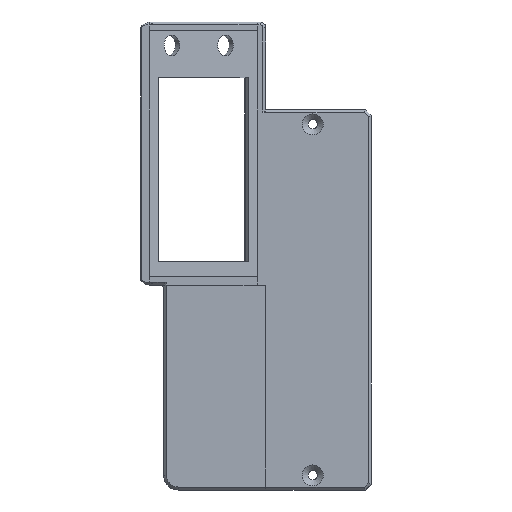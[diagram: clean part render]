
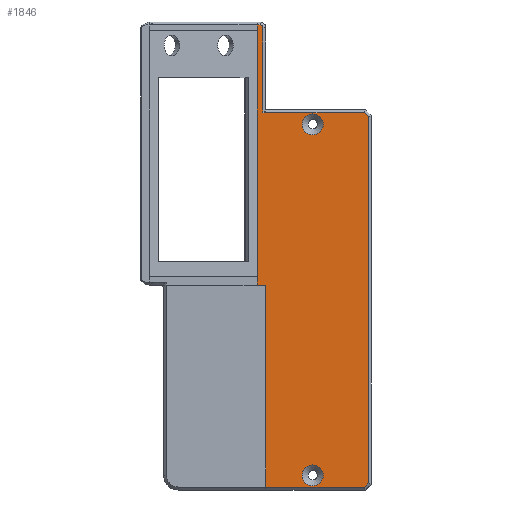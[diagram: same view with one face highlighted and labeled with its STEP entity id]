
A CAD part, left-side view. The second image highlights one B-rep face of the part: STEP entity #1846.
In plain terms, the highlighted planar face has unit normal (-1, 0, 0).
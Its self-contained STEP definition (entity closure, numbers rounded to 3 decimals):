
#987 = VERTEX_POINT('',#988);
#988 = CARTESIAN_POINT('',(0.,39.,70.));
#1020 = VERTEX_POINT('',#1021);
#1021 = CARTESIAN_POINT('',(0.,39.,73.));
#1027 = EDGE_CURVE('',#987,#1020,#1028,.T.);
#1028 = LINE('',#1029,#1030);
#1029 = CARTESIAN_POINT('',(0.,39.,0.));
#1030 = VECTOR('',#1031,1.);
#1031 = DIRECTION('',(0.,0.,1.));
#1416 = EDGE_CURVE('',#1417,#1419,#1421,.T.);
#1417 = VERTEX_POINT('',#1418);
#1418 = CARTESIAN_POINT('',(0.,39.,157.));
#1419 = VERTEX_POINT('',#1420);
#1420 = CARTESIAN_POINT('',(0.,39.,159.));
#1421 = LINE('',#1422,#1423);
#1422 = CARTESIAN_POINT('',(0.,39.,0.));
#1423 = VECTOR('',#1424,1.);
#1424 = DIRECTION('',(0.,0.,1.));
#1770 = EDGE_CURVE('',#1771,#1773,#1775,.T.);
#1771 = VERTEX_POINT('',#1772);
#1772 = CARTESIAN_POINT('',(0.,36.,1.));
#1773 = VERTEX_POINT('',#1774);
#1774 = CARTESIAN_POINT('',(0.,36.,70.));
#1775 = LINE('',#1776,#1777);
#1776 = CARTESIAN_POINT('',(0.,36.,0.));
#1777 = VECTOR('',#1778,1.);
#1778 = DIRECTION('',(0.,0.,1.));
#1804 = EDGE_CURVE('',#987,#1773,#1805,.T.);
#1805 = LINE('',#1806,#1807);
#1806 = CARTESIAN_POINT('',(0.,80.,70.));
#1807 = VECTOR('',#1808,1.);
#1808 = DIRECTION('',(0.,-1.,0.));
#1846 = ADVANCED_FACE('',(#1847,#1858,#1949),#1960,.T.);
#1847 = FACE_BOUND('',#1848,.T.);
#1848 = EDGE_LOOP('',(#1849));
#1849 = ORIENTED_EDGE('',*,*,#1850,.F.);
#1850 = EDGE_CURVE('',#1851,#1851,#1853,.T.);
#1851 = VERTEX_POINT('',#1852);
#1852 = CARTESIAN_POINT('',(0.,16.4,5.));
#1853 = CIRCLE('',#1854,3.6);
#1854 = AXIS2_PLACEMENT_3D('',#1855,#1856,#1857);
#1855 = CARTESIAN_POINT('',(0.,20.,5.));
#1856 = DIRECTION('',(-1.,0.,0.));
#1857 = DIRECTION('',(0.,-1.,0.));
#1858 = FACE_BOUND('',#1859,.T.);
#1859 = EDGE_LOOP('',(#1860,#1861,#1869,#1877,#1885,#1893,#1901,#1909,
    #1917,#1925,#1934,#1940,#1941,#1947,#1948));
#1860 = ORIENTED_EDGE('',*,*,#1770,.F.);
#1861 = ORIENTED_EDGE('',*,*,#1862,.F.);
#1862 = EDGE_CURVE('',#1863,#1771,#1865,.T.);
#1863 = VERTEX_POINT('',#1864);
#1864 = CARTESIAN_POINT('',(0.,2.414,1.));
#1865 = LINE('',#1866,#1867);
#1866 = CARTESIAN_POINT('',(0.,2.,1.));
#1867 = VECTOR('',#1868,1.);
#1868 = DIRECTION('',(0.,1.,0.));
#1869 = ORIENTED_EDGE('',*,*,#1870,.T.);
#1870 = EDGE_CURVE('',#1863,#1871,#1873,.T.);
#1871 = VERTEX_POINT('',#1872);
#1872 = CARTESIAN_POINT('',(0.,1.,2.414));
#1873 = LINE('',#1874,#1875);
#1874 = CARTESIAN_POINT('',(0.,2.707,
    0.707));
#1875 = VECTOR('',#1876,1.);
#1876 = DIRECTION('',(0.,-0.707,0.707));
#1877 = ORIENTED_EDGE('',*,*,#1878,.T.);
#1878 = EDGE_CURVE('',#1871,#1879,#1881,.T.);
#1879 = VERTEX_POINT('',#1880);
#1880 = CARTESIAN_POINT('',(0.,1.,127.586));
#1881 = LINE('',#1882,#1883);
#1882 = CARTESIAN_POINT('',(0.,1.,2.));
#1883 = VECTOR('',#1884,1.);
#1884 = DIRECTION('',(0.,0.,1.));
#1885 = ORIENTED_EDGE('',*,*,#1886,.F.);
#1886 = EDGE_CURVE('',#1887,#1879,#1889,.T.);
#1887 = VERTEX_POINT('',#1888);
#1888 = CARTESIAN_POINT('',(0.,2.414,129.));
#1889 = LINE('',#1890,#1891);
#1890 = CARTESIAN_POINT('',(0.,2.707,
    129.293));
#1891 = VECTOR('',#1892,1.);
#1892 = DIRECTION('',(-0.,-0.707,-0.707));
#1893 = ORIENTED_EDGE('',*,*,#1894,.T.);
#1894 = EDGE_CURVE('',#1887,#1895,#1897,.T.);
#1895 = VERTEX_POINT('',#1896);
#1896 = CARTESIAN_POINT('',(0.,36.,129.));
#1897 = LINE('',#1898,#1899);
#1898 = CARTESIAN_POINT('',(0.,2.,129.));
#1899 = VECTOR('',#1900,1.);
#1900 = DIRECTION('',(0.,1.,0.));
#1901 = ORIENTED_EDGE('',*,*,#1902,.T.);
#1902 = EDGE_CURVE('',#1895,#1903,#1905,.T.);
#1903 = VERTEX_POINT('',#1904);
#1904 = CARTESIAN_POINT('',(0.,37.,129.));
#1905 = LINE('',#1906,#1907);
#1906 = CARTESIAN_POINT('',(0.,36.,129.));
#1907 = VECTOR('',#1908,1.);
#1908 = DIRECTION('',(0.,1.,0.));
#1909 = ORIENTED_EDGE('',*,*,#1910,.F.);
#1910 = EDGE_CURVE('',#1911,#1903,#1913,.T.);
#1911 = VERTEX_POINT('',#1912);
#1912 = CARTESIAN_POINT('',(0.,37.,130.));
#1913 = LINE('',#1914,#1915);
#1914 = CARTESIAN_POINT('',(0.,37.,79.));
#1915 = VECTOR('',#1916,1.);
#1916 = DIRECTION('',(-0.,-0.,-1.));
#1917 = ORIENTED_EDGE('',*,*,#1918,.F.);
#1918 = EDGE_CURVE('',#1919,#1911,#1921,.T.);
#1919 = VERTEX_POINT('',#1920);
#1920 = CARTESIAN_POINT('',(0.,37.,158.));
#1921 = LINE('',#1922,#1923);
#1922 = CARTESIAN_POINT('',(0.,37.,158.));
#1923 = VECTOR('',#1924,1.);
#1924 = DIRECTION('',(-0.,-0.,-1.));
#1925 = ORIENTED_EDGE('',*,*,#1926,.F.);
#1926 = EDGE_CURVE('',#1927,#1919,#1929,.T.);
#1927 = VERTEX_POINT('',#1928);
#1928 = CARTESIAN_POINT('',(0.,38.,159.));
#1929 = CIRCLE('',#1930,1.);
#1930 = AXIS2_PLACEMENT_3D('',#1931,#1932,#1933);
#1931 = CARTESIAN_POINT('',(0.,38.,158.));
#1932 = DIRECTION('',(1.,0.,-0.));
#1933 = DIRECTION('',(0.,0.,1.));
#1934 = ORIENTED_EDGE('',*,*,#1935,.F.);
#1935 = EDGE_CURVE('',#1419,#1927,#1936,.T.);
#1936 = LINE('',#1937,#1938);
#1937 = CARTESIAN_POINT('',(0.,39.,159.));
#1938 = VECTOR('',#1939,1.);
#1939 = DIRECTION('',(-0.,-1.,-0.));
#1940 = ORIENTED_EDGE('',*,*,#1416,.F.);
#1941 = ORIENTED_EDGE('',*,*,#1942,.F.);
#1942 = EDGE_CURVE('',#1020,#1417,#1943,.T.);
#1943 = LINE('',#1944,#1945);
#1944 = CARTESIAN_POINT('',(0.,39.,0.));
#1945 = VECTOR('',#1946,1.);
#1946 = DIRECTION('',(0.,0.,1.));
#1947 = ORIENTED_EDGE('',*,*,#1027,.F.);
#1948 = ORIENTED_EDGE('',*,*,#1804,.T.);
#1949 = FACE_BOUND('',#1950,.T.);
#1950 = EDGE_LOOP('',(#1951));
#1951 = ORIENTED_EDGE('',*,*,#1952,.F.);
#1952 = EDGE_CURVE('',#1953,#1953,#1955,.T.);
#1953 = VERTEX_POINT('',#1954);
#1954 = CARTESIAN_POINT('',(0.,16.4,125.));
#1955 = CIRCLE('',#1956,3.6);
#1956 = AXIS2_PLACEMENT_3D('',#1957,#1958,#1959);
#1957 = CARTESIAN_POINT('',(0.,20.,125.));
#1958 = DIRECTION('',(-1.,0.,0.));
#1959 = DIRECTION('',(0.,-1.,0.));
#1960 = PLANE('',#1961);
#1961 = AXIS2_PLACEMENT_3D('',#1962,#1963,#1964);
#1962 = CARTESIAN_POINT('',(0.,0.,0.));
#1963 = DIRECTION('',(-1.,0.,0.));
#1964 = DIRECTION('',(0.,1.,0.));
